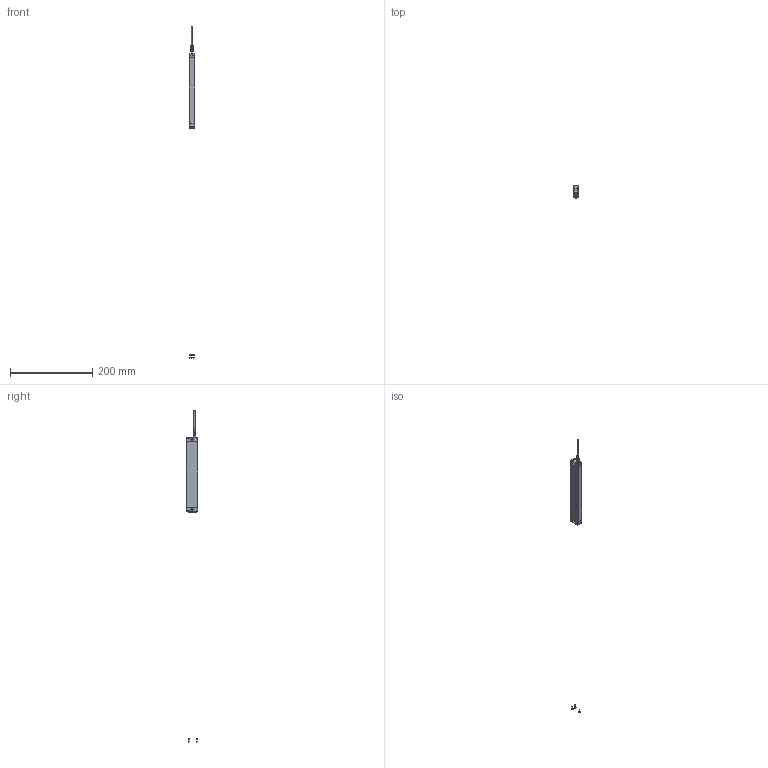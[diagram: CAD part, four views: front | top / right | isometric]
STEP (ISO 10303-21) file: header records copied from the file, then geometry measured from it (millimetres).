
FILE_DESCRIPTION (( 'STEP AP214' ), '1' );
FILE_NAME ('PG3-30RT-03BTC-5.STEP', '2025-09-22T08:20:00', ( 'Windows User' ), ( 'P R C' ), 'SwSTEP 2.0', 'SolidWorks 2023', '' );
FILE_SCHEMA (( 'AUTOMOTIVE_DESIGN' ));
Length unit declared in the file: millimetre
Products named in the file (1): PG3-30RT-03BTC-5
Bounding box: 14 x 28 x 805.06 mm (x, y, z)
Volume: 69157.2 mm3; surface area: 19012.1 mm2
Topology: 6 solids, 6 shells, 334 faces, 882 edges, 578 vertices
Faces by surface type: plane 183, cylinder 110, bspline 22, cone 19
Entity records: 12325 total; most frequent: CARTESIAN_POINT 4382, ORIENTED_EDGE 1764, DIRECTION 1496, EDGE_CURVE 882, VERTEX_POINT 578, AXIS2_PLACEMENT_3D 542, LINE 412, VECTOR 412
